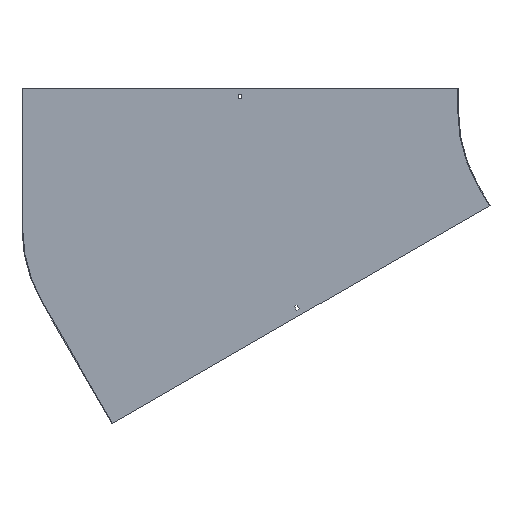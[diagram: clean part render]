
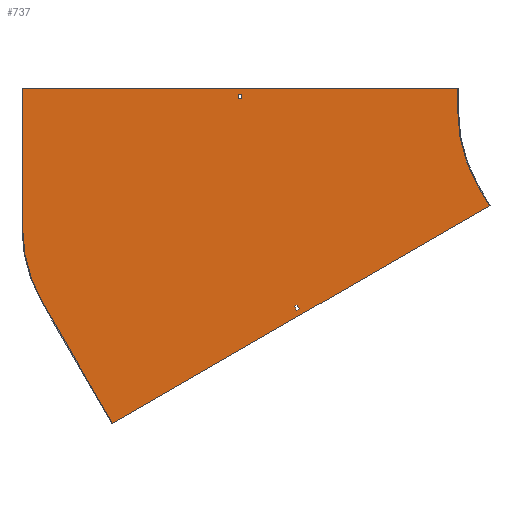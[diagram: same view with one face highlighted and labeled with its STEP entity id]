
A CAD part, front view. The second image highlights one B-rep face of the part: STEP entity #737.
In plain terms, the highlighted planar face has unit normal (0, -1, 0).
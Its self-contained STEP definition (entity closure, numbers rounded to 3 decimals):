
#9 = ORIENTED_EDGE ( 'NONE', *, *, #13, .F. ) ;
#13 = EDGE_CURVE ( 'NONE', #691, #290, #224, .T. ) ;
#15 = LINE ( 'NONE', #137, #240 ) ;
#18 = CIRCLE ( 'NONE', #635, 300. ) ;
#25 = EDGE_LOOP ( 'NONE', ( #509, #491, #277, #677 ) ) ;
#32 = EDGE_CURVE ( 'NONE', #57, #694, #554, .T. ) ;
#34 = CARTESIAN_POINT ( 'NONE',  ( 0., -1.5, 0. ) ) ;
#35 = CARTESIAN_POINT ( 'NONE',  ( -746.75, -1.5, 29. ) ) ;
#43 = VERTEX_POINT ( 'NONE', #87 ) ;
#44 = LINE ( 'NONE', #304, #682 ) ;
#50 = CARTESIAN_POINT ( 'NONE',  ( -632.204, -1.5, -398.49 ) ) ;
#57 = VERTEX_POINT ( 'NONE', #514 ) ;
#66 = AXIS2_PLACEMENT_3D ( 'NONE', #34, #418, #626 ) ;
#71 = VERTEX_POINT ( 'NONE', #50 ) ;
#73 = EDGE_CURVE ( 'NONE', #357, #409, #44, .T. ) ;
#75 = VECTOR ( 'NONE', #789, 1000. ) ;
#79 = ORIENTED_EDGE ( 'NONE', *, *, #833, .T. ) ;
#87 = CARTESIAN_POINT ( 'NONE',  ( -753.25, -1.5, 38. ) ) ;
#100 = ORIENTED_EDGE ( 'NONE', *, *, #485, .F. ) ;
#104 = VERTEX_POINT ( 'NONE', #384 ) ;
#114 = CARTESIAN_POINT ( 'NONE',  ( -1201.5, -1.5, 50. ) ) ;
#117 = CARTESIAN_POINT ( 'NONE',  ( 14.5, -1.5, -25.115 ) ) ;
#118 = LINE ( 'NONE', #711, #855 ) ;
#119 = LINE ( 'NONE', #177, #659 ) ;
#128 = DIRECTION ( 'NONE',  ( 0., 0., 1. ) ) ;
#133 = EDGE_CURVE ( 'NONE', #71, #520, #857, .T. ) ;
#137 = CARTESIAN_POINT ( 'NONE',  ( -753.25, -1.5, 0. ) ) ;
#149 = EDGE_CURVE ( 'NONE', #43, #57, #316, .T. ) ;
#150 = LINE ( 'NONE', #474, #229 ) ;
#160 = ORIENTED_EDGE ( 'NONE', *, *, #149, .T. ) ;
#165 = ORIENTED_EDGE ( 'NONE', *, *, #530, .F. ) ;
#167 = VECTOR ( 'NONE', #494, 1000. ) ;
#177 = CARTESIAN_POINT ( 'NONE',  ( -300., -1.5, 50. ) ) ;
#189 = CARTESIAN_POINT ( 'NONE',  ( -753.25, -1.5, 29. ) ) ;
#190 = DIRECTION ( 'NONE',  ( 0., -1., 0. ) ) ;
#198 = DIRECTION ( 'NONE',  ( 0., 0., 1. ) ) ;
#214 = CARTESIAN_POINT ( 'NONE',  ( -1200., -1.5, 50. ) ) ;
#216 = VECTOR ( 'NONE', #198, 1000. ) ;
#219 = CARTESIAN_POINT ( 'NONE',  ( -259.808, -1.5, -150. ) ) ;
#220 = CARTESIAN_POINT ( 'NONE',  ( -233.509, -1.5, -192.551 ) ) ;
#224 = LINE ( 'NONE', #219, #496 ) ;
#226 = LINE ( 'NONE', #220, #167 ) ;
#229 = VECTOR ( 'NONE', #281, 1000. ) ;
#240 = VECTOR ( 'NONE', #128, 1000. ) ;
#249 = DIRECTION ( 'NONE',  ( 1., 0., 0. ) ) ;
#252 = DIRECTION ( 'NONE',  ( 0., 1., 0. ) ) ;
#259 = CARTESIAN_POINT ( 'NONE',  ( -627.704, -1.5, -406.284 ) ) ;
#261 = ORIENTED_EDGE ( 'NONE', *, *, #647, .T. ) ;
#262 = EDGE_CURVE ( 'NONE', #409, #71, #348, .T. ) ;
#270 = CARTESIAN_POINT ( 'NONE',  ( -1014.23, -1.5, -643.301 ) ) ;
#271 = VECTOR ( 'NONE', #249, 1000. ) ;
#273 = CARTESIAN_POINT ( 'NONE',  ( -300., -1.5, 0. ) ) ;
#277 = ORIENTED_EDGE ( 'NONE', *, *, #293, .F. ) ;
#281 = DIRECTION ( 'NONE',  ( 0.5, 0., -0.866 ) ) ;
#290 = VERTEX_POINT ( 'NONE', #665 ) ;
#293 = EDGE_CURVE ( 'NONE', #520, #357, #150, .T. ) ;
#294 = VECTOR ( 'NONE', #380, 1000. ) ;
#304 = CARTESIAN_POINT ( 'NONE',  ( 19., -1.5, -32.909 ) ) ;
#309 = FACE_OUTER_BOUND ( 'NONE', #575, .T. ) ;
#310 = CARTESIAN_POINT ( 'NONE',  ( -637.834, -1.5, -401.74 ) ) ;
#316 = LINE ( 'NONE', #456, #623 ) ;
#317 = VERTEX_POINT ( 'NONE', #214 ) ;
#327 = VERTEX_POINT ( 'NONE', #270 ) ;
#346 = ORIENTED_EDGE ( 'NONE', *, *, #555, .F. ) ;
#348 = LINE ( 'NONE', #402, #699 ) ;
#352 = VERTEX_POINT ( 'NONE', #407 ) ;
#357 = VERTEX_POINT ( 'NONE', #805 ) ;
#380 = DIRECTION ( 'NONE',  ( -0.866, 0., -0.5 ) ) ;
#384 = CARTESIAN_POINT ( 'NONE',  ( -1200., -1.5, -241.154 ) ) ;
#402 = CARTESIAN_POINT ( 'NONE',  ( -646.704, -1.5, -373.375 ) ) ;
#407 = CARTESIAN_POINT ( 'NONE',  ( -1159.808, -1.5, -391.154 ) ) ;
#409 = VERTEX_POINT ( 'NONE', #259 ) ;
#418 = DIRECTION ( 'NONE',  ( 0., -1., 0. ) ) ;
#420 = ORIENTED_EDGE ( 'NONE', *, *, #763, .F. ) ;
#422 = EDGE_CURVE ( 'NONE', #327, #352, #859, .T. ) ;
#432 = DIRECTION ( 'NONE',  ( 0.5, 0., -0.866 ) ) ;
#445 = CARTESIAN_POINT ( 'NONE',  ( -259.808, -1.5, -150. ) ) ;
#451 = EDGE_CURVE ( 'NONE', #317, #620, #850, .T. ) ;
#456 = CARTESIAN_POINT ( 'NONE',  ( 0., -1.5, 38. ) ) ;
#466 = CARTESIAN_POINT ( 'NONE',  ( -1014.23, -1.5, -643.301 ) ) ;
#469 = DIRECTION ( 'NONE',  ( -1., 0., 0. ) ) ;
#474 = CARTESIAN_POINT ( 'NONE',  ( -652.334, -1.5, -376.625 ) ) ;
#485 = EDGE_CURVE ( 'NONE', #620, #559, #119, .T. ) ;
#491 = ORIENTED_EDGE ( 'NONE', *, *, #73, .F. ) ;
#493 = ORIENTED_EDGE ( 'NONE', *, *, #819, .F. ) ;
#494 = DIRECTION ( 'NONE',  ( -0.866, 0., -0.5 ) ) ;
#496 = VECTOR ( 'NONE', #432, 1000. ) ;
#505 = DIRECTION ( 'NONE',  ( 0., 0., -1. ) ) ;
#509 = ORIENTED_EDGE ( 'NONE', *, *, #262, .F. ) ;
#514 = CARTESIAN_POINT ( 'NONE',  ( -746.75, -1.5, 38. ) ) ;
#520 = VERTEX_POINT ( 'NONE', #310 ) ;
#530 = EDGE_CURVE ( 'NONE', #559, #691, #602, .T. ) ;
#532 = DIRECTION ( 'NONE',  ( 0., 0., -1. ) ) ;
#554 = LINE ( 'NONE', #690, #638 ) ;
#555 = EDGE_CURVE ( 'NONE', #104, #317, #738, .T. ) ;
#559 = VERTEX_POINT ( 'NONE', #273 ) ;
#575 = EDGE_LOOP ( 'NONE', ( #598, #346, #493, #592, #420, #9, #165, #100 ) ) ;
#576 = FACE_BOUND ( 'NONE', #790, .T. ) ;
#577 = CARTESIAN_POINT ( 'NONE',  ( 0., -1.5, 0. ) ) ;
#592 = ORIENTED_EDGE ( 'NONE', *, *, #422, .F. ) ;
#598 = ORIENTED_EDGE ( 'NONE', *, *, #451, .F. ) ;
#602 = CIRCLE ( 'NONE', #770, 300. ) ;
#604 = DIRECTION ( 'NONE',  ( -0.5, 0., 0.866 ) ) ;
#620 = VERTEX_POINT ( 'NONE', #796 ) ;
#623 = VECTOR ( 'NONE', #715, 1000. ) ;
#626 = DIRECTION ( 'NONE',  ( 0., 0., -1. ) ) ;
#635 = AXIS2_PLACEMENT_3D ( 'NONE', #791, #252, #644 ) ;
#636 = DIRECTION ( 'NONE',  ( 0., 0., -1. ) ) ;
#638 = VECTOR ( 'NONE', #505, 1000. ) ;
#644 = DIRECTION ( 'NONE',  ( 0., 0., -1. ) ) ;
#647 = EDGE_CURVE ( 'NONE', #832, #43, #15, .T. ) ;
#649 = ORIENTED_EDGE ( 'NONE', *, *, #32, .T. ) ;
#659 = VECTOR ( 'NONE', #636, 1000. ) ;
#665 = CARTESIAN_POINT ( 'NONE',  ( -234.808, -1.5, -193.301 ) ) ;
#677 = ORIENTED_EDGE ( 'NONE', *, *, #133, .F. ) ;
#682 = VECTOR ( 'NONE', #713, 1000. ) ;
#690 = CARTESIAN_POINT ( 'NONE',  ( -746.75, -1.5, 0. ) ) ;
#691 = VERTEX_POINT ( 'NONE', #445 ) ;
#694 = VERTEX_POINT ( 'NONE', #35 ) ;
#699 = VECTOR ( 'NONE', #604, 1000. ) ;
#711 = CARTESIAN_POINT ( 'NONE',  ( 0., -1.5, 29. ) ) ;
#713 = DIRECTION ( 'NONE',  ( 0.866, 0., 0.5 ) ) ;
#715 = DIRECTION ( 'NONE',  ( 1., 0., 0. ) ) ;
#737 = ADVANCED_FACE ( 'NONE', ( #844, #309, #576 ), #774, .T. ) ;
#738 = LINE ( 'NONE', #792, #216 ) ;
#763 = EDGE_CURVE ( 'NONE', #290, #327, #226, .T. ) ;
#770 = AXIS2_PLACEMENT_3D ( 'NONE', #577, #190, #532 ) ;
#774 = PLANE ( 'NONE',  #66 ) ;
#789 = DIRECTION ( 'NONE',  ( -0.5, 0., 0.866 ) ) ;
#790 = EDGE_LOOP ( 'NONE', ( #160, #649, #79, #261 ) ) ;
#791 = CARTESIAN_POINT ( 'NONE',  ( -900., -1.5, -241.154 ) ) ;
#792 = CARTESIAN_POINT ( 'NONE',  ( -1200., -1.5, -241.154 ) ) ;
#796 = CARTESIAN_POINT ( 'NONE',  ( -300., -1.5, 50. ) ) ;
#805 = CARTESIAN_POINT ( 'NONE',  ( -633.334, -1.5, -409.534 ) ) ;
#819 = EDGE_CURVE ( 'NONE', #352, #104, #18, .T. ) ;
#832 = VERTEX_POINT ( 'NONE', #189 ) ;
#833 = EDGE_CURVE ( 'NONE', #694, #832, #118, .T. ) ;
#844 = FACE_BOUND ( 'NONE', #25, .T. ) ;
#850 = LINE ( 'NONE', #114, #271 ) ;
#855 = VECTOR ( 'NONE', #469, 1000. ) ;
#857 = LINE ( 'NONE', #117, #294 ) ;
#859 = LINE ( 'NONE', #466, #75 ) ;
